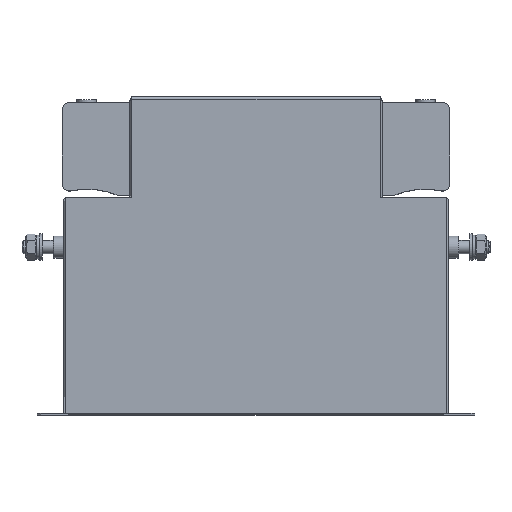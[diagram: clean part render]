
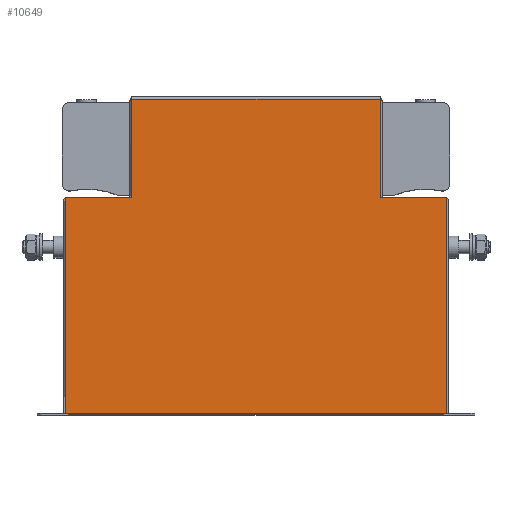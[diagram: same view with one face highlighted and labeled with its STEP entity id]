
A CAD part, top view. The second image highlights one B-rep face of the part: STEP entity #10649.
In plain terms, the highlighted planar face has unit normal (0, 0, 1).
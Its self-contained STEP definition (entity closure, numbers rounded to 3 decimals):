
#1191=FACE_OUTER_BOUND('',#1908,.T.);
#1908=EDGE_LOOP('',(#8716,#8717,#8718,#8719,#8720,#8721,#8722,#8723,#8724,
#8725));
#3002=LINE('',#17538,#4024);
#3003=LINE('',#17540,#4025);
#3004=LINE('',#17542,#4026);
#3005=LINE('',#17544,#4027);
#3006=LINE('',#17546,#4028);
#3007=LINE('',#17548,#4029);
#3008=LINE('',#17550,#4030);
#3009=LINE('',#17552,#4031);
#3010=LINE('',#17554,#4032);
#3011=LINE('',#17555,#4033);
#4024=VECTOR('',#13916,10.);
#4025=VECTOR('',#13917,10.);
#4026=VECTOR('',#13918,10.);
#4027=VECTOR('',#13919,10.);
#4028=VECTOR('',#13920,10.);
#4029=VECTOR('',#13921,10.);
#4030=VECTOR('',#13922,10.);
#4031=VECTOR('',#13923,10.);
#4032=VECTOR('',#13924,10.);
#4033=VECTOR('',#13925,10.);
#4876=VERTEX_POINT('',#17536);
#4877=VERTEX_POINT('',#17537);
#4878=VERTEX_POINT('',#17539);
#4879=VERTEX_POINT('',#17541);
#4880=VERTEX_POINT('',#17543);
#4881=VERTEX_POINT('',#17545);
#4882=VERTEX_POINT('',#17547);
#4883=VERTEX_POINT('',#17549);
#4884=VERTEX_POINT('',#17551);
#4885=VERTEX_POINT('',#17553);
#6195=EDGE_CURVE('',#4876,#4877,#3002,.T.);
#6196=EDGE_CURVE('',#4876,#4878,#3003,.T.);
#6197=EDGE_CURVE('',#4878,#4879,#3004,.T.);
#6198=EDGE_CURVE('',#4879,#4880,#3005,.T.);
#6199=EDGE_CURVE('',#4880,#4881,#3006,.T.);
#6200=EDGE_CURVE('',#4881,#4882,#3007,.T.);
#6201=EDGE_CURVE('',#4883,#4882,#3008,.T.);
#6202=EDGE_CURVE('',#4884,#4883,#3009,.T.);
#6203=EDGE_CURVE('',#4885,#4884,#3010,.T.);
#6204=EDGE_CURVE('',#4877,#4885,#3011,.T.);
#8716=ORIENTED_EDGE('',*,*,#6195,.F.);
#8717=ORIENTED_EDGE('',*,*,#6196,.T.);
#8718=ORIENTED_EDGE('',*,*,#6197,.T.);
#8719=ORIENTED_EDGE('',*,*,#6198,.T.);
#8720=ORIENTED_EDGE('',*,*,#6199,.T.);
#8721=ORIENTED_EDGE('',*,*,#6200,.T.);
#8722=ORIENTED_EDGE('',*,*,#6201,.F.);
#8723=ORIENTED_EDGE('',*,*,#6202,.F.);
#8724=ORIENTED_EDGE('',*,*,#6203,.F.);
#8725=ORIENTED_EDGE('',*,*,#6204,.F.);
#9584=PLANE('',#11442);
#10649=ADVANCED_FACE('',(#1191),#9584,.T.);
#11442=AXIS2_PLACEMENT_3D('',#17535,#13914,#13915);
#13914=DIRECTION('center_axis',(0.,0.,
1.));
#13915=DIRECTION('ref_axis',(1.,0.,0.));
#13916=DIRECTION('',(0.707,-0.707,0.));
#13917=DIRECTION('',(-1.,0.,0.));
#13918=DIRECTION('',(0.,1.,0.));
#13919=DIRECTION('',(-1.,0.,0.));
#13920=DIRECTION('',(0.,-1.,0.));
#13921=DIRECTION('',(-1.,0.,0.));
#13922=DIRECTION('',(0.707,0.707,0.));
#13923=DIRECTION('',(0.,1.,0.));
#13924=DIRECTION('',(-1.,0.,0.));
#13925=DIRECTION('',(0.,-1.,0.));
#17535=CARTESIAN_POINT('Origin',(0.,120.5,49.75));
#17536=CARTESIAN_POINT('',(142.5,164.,49.75));
#17537=CARTESIAN_POINT('',(143.5,163.,49.75));
#17538=CARTESIAN_POINT('',(118.,188.5,49.75));
#17539=CARTESIAN_POINT('',(93.5,164.,49.75));
#17540=CARTESIAN_POINT('',(71.75,164.,49.75));
#17541=CARTESIAN_POINT('',(93.5,238.2,49.75));
#17542=CARTESIAN_POINT('',(93.5,142.25,49.75));
#17543=CARTESIAN_POINT('',(-93.5,238.2,49.75));
#17544=CARTESIAN_POINT('',(46.75,238.2,49.75));
#17545=CARTESIAN_POINT('',(-93.5,164.,49.75));
#17546=CARTESIAN_POINT('',(-93.5,180.25,49.75));
#17547=CARTESIAN_POINT('',(-142.5,164.,49.75));
#17548=CARTESIAN_POINT('',(-46.75,164.,49.75));
#17549=CARTESIAN_POINT('',(-143.5,163.,49.75));
#17550=CARTESIAN_POINT('',(-118.,188.5,49.75));
#17551=CARTESIAN_POINT('',(-143.5,1.,49.75));
#17552=CARTESIAN_POINT('',(-143.5,240.,49.75));
#17553=CARTESIAN_POINT('',(143.5,1.,49.75));
#17554=CARTESIAN_POINT('',(-143.5,1.,49.75));
#17555=CARTESIAN_POINT('',(143.5,1.,49.75));
